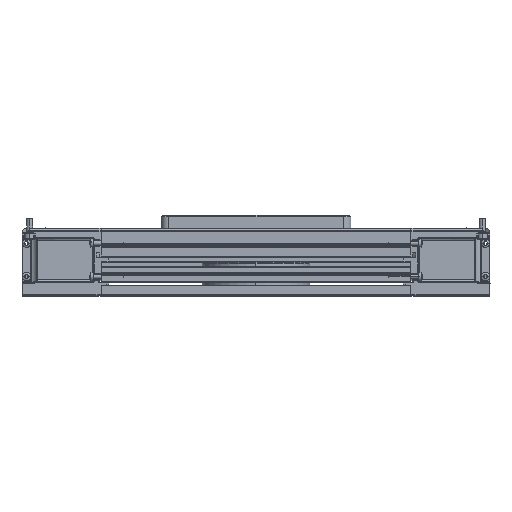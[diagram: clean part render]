
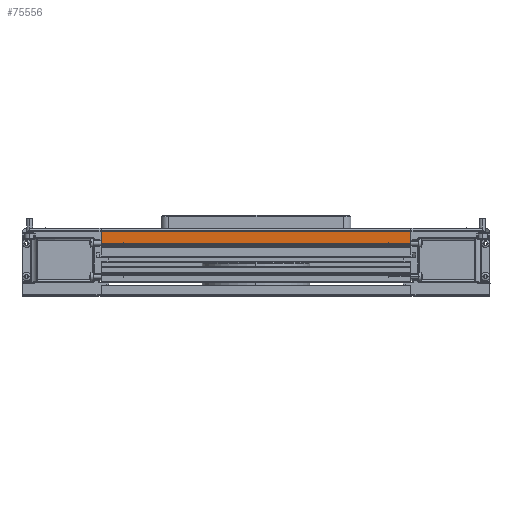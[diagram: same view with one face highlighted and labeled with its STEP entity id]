
A CAD part, left-side view. The second image highlights one B-rep face of the part: STEP entity #75556.
In plain terms, the highlighted planar face has unit normal (-1, 0, 0).
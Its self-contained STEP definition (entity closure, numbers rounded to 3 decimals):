
#3700 = LINE ( 'NONE', #52603, #57889 ) ;
#8218 = CARTESIAN_POINT ( 'NONE',  ( -204., -152., 43. ) ) ;
#10126 = FACE_OUTER_BOUND ( 'NONE', #42207, .T. ) ;
#10639 = ORIENTED_EDGE ( 'NONE', *, *, #59319, .T. ) ;
#11262 = LINE ( 'NONE', #77429, #27739 ) ;
#15161 = ORIENTED_EDGE ( 'NONE', *, *, #58479, .F. ) ;
#15338 = CARTESIAN_POINT ( 'NONE',  ( -204., 1400., 43. ) ) ;
#22380 = DIRECTION ( 'NONE',  ( 0., 0., -1. ) ) ;
#26609 = ORIENTED_EDGE ( 'NONE', *, *, #58638, .T. ) ;
#27153 = CARTESIAN_POINT ( 'NONE',  ( -204., -152., 43. ) ) ;
#27739 = VECTOR ( 'NONE', #42437, 1000. ) ;
#28069 = LINE ( 'NONE', #73906, #65626 ) ;
#38885 = DIRECTION ( 'NONE',  ( 0., -1., 0. ) ) ;
#40319 = DIRECTION ( 'NONE',  ( 0., 1., 0. ) ) ;
#40460 = ORIENTED_EDGE ( 'NONE', *, *, #58105, .T. ) ;
#42207 = EDGE_LOOP ( 'NONE', ( #40460, #15161, #26609, #10639 ) ) ;
#42437 = DIRECTION ( 'NONE',  ( 0., 0., -1. ) ) ;
#46427 = CARTESIAN_POINT ( 'NONE',  ( -204., -152., 34.55 ) ) ;
#49054 = VECTOR ( 'NONE', #84886, 1000. ) ;
#52603 = CARTESIAN_POINT ( 'NONE',  ( -204., 1400., 43. ) ) ;
#56963 = CARTESIAN_POINT ( 'NONE',  ( -204., 52., 34.55 ) ) ;
#57889 = VECTOR ( 'NONE', #40319, 1000. ) ;
#58105 = EDGE_CURVE ( 'NONE', #67029, #69854, #28069, .T. ) ;
#58479 = EDGE_CURVE ( 'NONE', #70462, #69854, #67707, .T. ) ;
#58638 = EDGE_CURVE ( 'NONE', #70462, #74650, #3700, .T. ) ;
#59319 = EDGE_CURVE ( 'NONE', #74650, #67029, #11262, .T. ) ;
#64715 = DIRECTION ( 'NONE',  ( -1., 0., 0. ) ) ;
#65626 = VECTOR ( 'NONE', #38885, 1000. ) ;
#66054 = CARTESIAN_POINT ( 'NONE',  ( -204., 52., 43. ) ) ;
#67029 = VERTEX_POINT ( 'NONE', #56963 ) ;
#67707 = LINE ( 'NONE', #8218, #49054 ) ;
#69854 = VERTEX_POINT ( 'NONE', #46427 ) ;
#70462 = VERTEX_POINT ( 'NONE', #27153 ) ;
#71248 = PLANE ( 'NONE',  #86775 ) ;
#73906 = CARTESIAN_POINT ( 'NONE',  ( -204., 1400., 34.55 ) ) ;
#74650 = VERTEX_POINT ( 'NONE', #66054 ) ;
#75556 = ADVANCED_FACE ( 'NONE', ( #10126 ), #71248, .T. ) ;
#77429 = CARTESIAN_POINT ( 'NONE',  ( -204., 52., 43. ) ) ;
#84886 = DIRECTION ( 'NONE',  ( 0., 0., -1. ) ) ;
#86775 = AXIS2_PLACEMENT_3D ( 'NONE', #15338, #64715, #22380 ) ;
